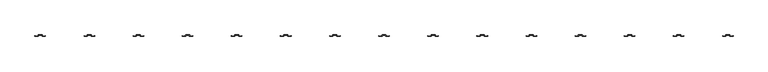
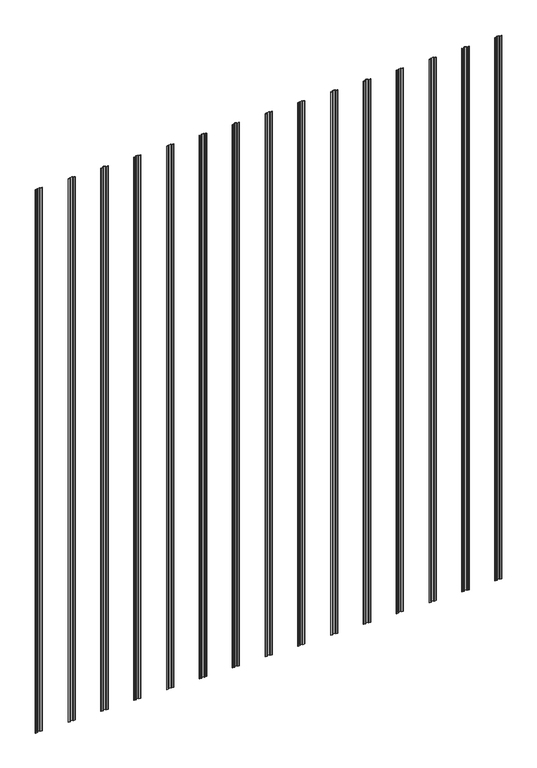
"""IFC4 building model written with IfcOpenShell, lengths in millimetres: fastener geometry, Knight-Wall-Systems_HCI-Girt : Knight-Wall-Systems_HCI-Girt."""

from ifc_helpers import new_model, si_unit, point, frame_2d, origin, origin_with_axes, place, context, project, spatial, polyline, circle_curve, trimmed, segment, composite_curve, outline, extrude, source, transform, mapped, element, save


def fastener_29e350ac(model_context):
    return source(origin(), model_context, "Body", "SweptSolid", [
        extrude(outline(composite_curve([segment(trimmed(circle_curve(frame_2d((8217.281, 3.048)), 1.524), [point((8217.281, 1.524))], [point((8218.805, 3.048))], True, "CARTESIAN"), True, "CONTINUOUS"), segment(polyline([(8218.805, 3.048), (8218.805, 16.002)]), True, "CONTINUOUS"), segment(trimmed(circle_curve(frame_2d((8221.853, 16.002)), 3.048), [point((8218.805, 16.002))], [point((8221.853, 19.05))], False, "CARTESIAN"), True, "CONTINUOUS"), segment(polyline([(8221.853, 19.05), (8266.557, 19.05)]), True, "CONTINUOUS"), segment(trimmed(circle_curve(frame_2d((8266.557, 16.002)), 3.048), [point((8266.557, 19.05))], [point((8269.605, 16.002))], False, "CARTESIAN"), True, "CONTINUOUS"), segment(polyline([(8269.605, 16.002), (8269.605, 3.048)]), True, "CONTINUOUS"), segment(trimmed(circle_curve(frame_2d((8271.129, 3.048)), 1.524), [point((8269.605, 3.048))], [point((8271.129, 1.524))], True, "CARTESIAN"), True, "CONTINUOUS"), segment(polyline([(8271.129, 1.524), (8307.07, 1.524)]), True, "CONTINUOUS"), segment(trimmed(circle_curve(frame_2d((8307.07, 2.54)), 1.016), [point((8307.07, 1.524))], [point((8308.086, 2.54))], True, "CARTESIAN"), True, "CONTINUOUS"), segment(polyline([(8308.086, 2.54), (8308.086, 5.588), (8309.61, 5.588), (8309.61, 2.54)]), True, "CONTINUOUS"), segment(trimmed(circle_curve(frame_2d((8307.07, 2.54)), 2.54), [point((8309.61, 2.54))], [point((8307.07, 0.0))], False, "CARTESIAN"), True, "CONTINUOUS"), segment(polyline([(8307.07, 0.0), (8271.129, 0.0)]), True, "CONTINUOUS"), segment(trimmed(circle_curve(frame_2d((8271.129, 3.048)), 3.048), [point((8271.129, 0.0))], [point((8268.081, 3.048))], False, "CARTESIAN"), True, "CONTINUOUS"), segment(polyline([(8268.081, 3.048), (8268.081, 16.002)]), True, "CONTINUOUS"), segment(trimmed(circle_curve(frame_2d((8266.557, 16.002)), 1.524), [point((8268.081, 16.002))], [point((8266.557, 17.526))], True, "CARTESIAN"), True, "CONTINUOUS"), segment(polyline([(8266.557, 17.526), (8221.853, 17.526)]), True, "CONTINUOUS"), segment(trimmed(circle_curve(frame_2d((8221.853, 16.002)), 1.524), [point((8221.853, 17.526))], [point((8220.329, 16.002))], True, "CARTESIAN"), True, "CONTINUOUS"), segment(polyline([(8220.329, 16.002), (8220.329, 3.048)]), True, "CONTINUOUS"), segment(trimmed(circle_curve(frame_2d((8217.281, 3.048)), 3.048), [point((8220.329, 3.048))], [point((8217.281, 0.0))], False, "CARTESIAN"), True, "CONTINUOUS"), segment(polyline([(8217.281, 0.0), (8181.34, 0.0)]), True, "CONTINUOUS"), segment(trimmed(circle_curve(frame_2d((8181.34, 2.54)), 2.54), [point((8181.34, 0.0))], [point((8178.8, 2.54))], False, "CARTESIAN"), True, "CONTINUOUS"), segment(polyline([(8178.8, 2.54), (8178.8, 5.588), (8180.324, 5.588), (8180.324, 2.54)]), True, "CONTINUOUS"), segment(trimmed(circle_curve(frame_2d((8181.34, 2.54)), 1.016), [point((8180.324, 2.54))], [point((8181.34, 1.524))], True, "CARTESIAN"), True, "CONTINUOUS"), segment(polyline([(8181.34, 1.524), (8217.281, 1.524)]), True, "CONTINUOUS")], self_intersect=False)), origin_with_axes(), (0.0, 0.0, 1.0), 10668.0),
        extrude(outline(composite_curve([segment(trimmed(circle_curve(frame_2d((7607.681, 3.048)), 1.524), [point((7607.681, 1.524))], [point((7609.205, 3.048))], True, "CARTESIAN"), True, "CONTINUOUS"), segment(polyline([(7609.205, 3.048), (7609.205, 16.002)]), True, "CONTINUOUS"), segment(trimmed(circle_curve(frame_2d((7612.253, 16.002)), 3.048), [point((7609.205, 16.002))], [point((7612.253, 19.05))], False, "CARTESIAN"), True, "CONTINUOUS"), segment(polyline([(7612.253, 19.05), (7656.957, 19.05)]), True, "CONTINUOUS"), segment(trimmed(circle_curve(frame_2d((7656.957, 16.002)), 3.048), [point((7656.957, 19.05))], [point((7660.005, 16.002))], False, "CARTESIAN"), True, "CONTINUOUS"), segment(polyline([(7660.005, 16.002), (7660.005, 3.048)]), True, "CONTINUOUS"), segment(trimmed(circle_curve(frame_2d((7661.529, 3.048)), 1.524), [point((7660.005, 3.048))], [point((7661.529, 1.524))], True, "CARTESIAN"), True, "CONTINUOUS"), segment(polyline([(7661.529, 1.524), (7697.47, 1.524)]), True, "CONTINUOUS"), segment(trimmed(circle_curve(frame_2d((7697.47, 2.54)), 1.016), [point((7697.47, 1.524))], [point((7698.486, 2.54))], True, "CARTESIAN"), True, "CONTINUOUS"), segment(polyline([(7698.486, 2.54), (7698.486, 5.588), (7700.01, 5.588), (7700.01, 2.54)]), True, "CONTINUOUS"), segment(trimmed(circle_curve(frame_2d((7697.47, 2.54)), 2.54), [point((7700.01, 2.54))], [point((7697.47, 0.0))], False, "CARTESIAN"), True, "CONTINUOUS"), segment(polyline([(7697.47, 0.0), (7661.529, 0.0)]), True, "CONTINUOUS"), segment(trimmed(circle_curve(frame_2d((7661.529, 3.048)), 3.048), [point((7661.529, 0.0))], [point((7658.481, 3.048))], False, "CARTESIAN"), True, "CONTINUOUS"), segment(polyline([(7658.481, 3.048), (7658.481, 16.002)]), True, "CONTINUOUS"), segment(trimmed(circle_curve(frame_2d((7656.957, 16.002)), 1.524), [point((7658.481, 16.002))], [point((7656.957, 17.526))], True, "CARTESIAN"), True, "CONTINUOUS"), segment(polyline([(7656.957, 17.526), (7612.253, 17.526)]), True, "CONTINUOUS"), segment(trimmed(circle_curve(frame_2d((7612.253, 16.002)), 1.524), [point((7612.253, 17.526))], [point((7610.729, 16.002))], True, "CARTESIAN"), True, "CONTINUOUS"), segment(polyline([(7610.729, 16.002), (7610.729, 3.048)]), True, "CONTINUOUS"), segment(trimmed(circle_curve(frame_2d((7607.681, 3.048)), 3.048), [point((7610.729, 3.048))], [point((7607.681, 0.0))], False, "CARTESIAN"), True, "CONTINUOUS"), segment(polyline([(7607.681, 0.0), (7571.74, 0.0)]), True, "CONTINUOUS"), segment(trimmed(circle_curve(frame_2d((7571.74, 2.54)), 2.54), [point((7571.74, 0.0))], [point((7569.2, 2.54))], False, "CARTESIAN"), True, "CONTINUOUS"), segment(polyline([(7569.2, 2.54), (7569.2, 5.588), (7570.724, 5.588), (7570.724, 2.54)]), True, "CONTINUOUS"), segment(trimmed(circle_curve(frame_2d((7571.74, 2.54)), 1.016), [point((7570.724, 2.54))], [point((7571.74, 1.524))], True, "CARTESIAN"), True, "CONTINUOUS"), segment(polyline([(7571.74, 1.524), (7607.681, 1.524)]), True, "CONTINUOUS")], self_intersect=False)), origin_with_axes(), (0.0, 0.0, 1.0), 10668.0),
        extrude(outline(composite_curve([segment(trimmed(circle_curve(frame_2d((6998.081, 3.048)), 1.524), [point((6998.081, 1.524))], [point((6999.605, 3.048))], True, "CARTESIAN"), True, "CONTINUOUS"), segment(polyline([(6999.605, 3.048), (6999.605, 16.002)]), True, "CONTINUOUS"), segment(trimmed(circle_curve(frame_2d((7002.653, 16.002)), 3.048), [point((6999.605, 16.002))], [point((7002.653, 19.05))], False, "CARTESIAN"), True, "CONTINUOUS"), segment(polyline([(7002.653, 19.05), (7047.357, 19.05)]), True, "CONTINUOUS"), segment(trimmed(circle_curve(frame_2d((7047.357, 16.002)), 3.048), [point((7047.357, 19.05))], [point((7050.405, 16.002))], False, "CARTESIAN"), True, "CONTINUOUS"), segment(polyline([(7050.405, 16.002), (7050.405, 3.048)]), True, "CONTINUOUS"), segment(trimmed(circle_curve(frame_2d((7051.929, 3.048)), 1.524), [point((7050.405, 3.048))], [point((7051.929, 1.524))], True, "CARTESIAN"), True, "CONTINUOUS"), segment(polyline([(7051.929, 1.524), (7087.87, 1.524)]), True, "CONTINUOUS"), segment(trimmed(circle_curve(frame_2d((7087.87, 2.54)), 1.016), [point((7087.87, 1.524))], [point((7088.886, 2.54))], True, "CARTESIAN"), True, "CONTINUOUS"), segment(polyline([(7088.886, 2.54), (7088.886, 5.588), (7090.41, 5.588), (7090.41, 2.54)]), True, "CONTINUOUS"), segment(trimmed(circle_curve(frame_2d((7087.87, 2.54)), 2.54), [point((7090.41, 2.54))], [point((7087.87, 0.0))], False, "CARTESIAN"), True, "CONTINUOUS"), segment(polyline([(7087.87, 0.0), (7051.929, 0.0)]), True, "CONTINUOUS"), segment(trimmed(circle_curve(frame_2d((7051.929, 3.048)), 3.048), [point((7051.929, 0.0))], [point((7048.881, 3.048))], False, "CARTESIAN"), True, "CONTINUOUS"), segment(polyline([(7048.881, 3.048), (7048.881, 16.002)]), True, "CONTINUOUS"), segment(trimmed(circle_curve(frame_2d((7047.357, 16.002)), 1.524), [point((7048.881, 16.002))], [point((7047.357, 17.526))], True, "CARTESIAN"), True, "CONTINUOUS"), segment(polyline([(7047.357, 17.526), (7002.653, 17.526)]), True, "CONTINUOUS"), segment(trimmed(circle_curve(frame_2d((7002.653, 16.002)), 1.524), [point((7002.653, 17.526))], [point((7001.129, 16.002))], True, "CARTESIAN"), True, "CONTINUOUS"), segment(polyline([(7001.129, 16.002), (7001.129, 3.048)]), True, "CONTINUOUS"), segment(trimmed(circle_curve(frame_2d((6998.081, 3.048)), 3.048), [point((7001.129, 3.048))], [point((6998.081, 0.0))], False, "CARTESIAN"), True, "CONTINUOUS"), segment(polyline([(6998.081, 0.0), (6962.14, 0.0)]), True, "CONTINUOUS"), segment(trimmed(circle_curve(frame_2d((6962.14, 2.54)), 2.54), [point((6962.14, 0.0))], [point((6959.6, 2.54))], False, "CARTESIAN"), True, "CONTINUOUS"), segment(polyline([(6959.6, 2.54), (6959.6, 5.588), (6961.124, 5.588), (6961.124, 2.54)]), True, "CONTINUOUS"), segment(trimmed(circle_curve(frame_2d((6962.14, 2.54)), 1.016), [point((6961.124, 2.54))], [point((6962.14, 1.524))], True, "CARTESIAN"), True, "CONTINUOUS"), segment(polyline([(6962.14, 1.524), (6998.081, 1.524)]), True, "CONTINUOUS")], self_intersect=False)), origin_with_axes(), (0.0, 0.0, 1.0), 10668.0),
        extrude(outline(composite_curve([segment(trimmed(circle_curve(frame_2d((6388.481, 3.048)), 1.524), [point((6388.481, 1.524))], [point((6390.005, 3.048))], True, "CARTESIAN"), True, "CONTINUOUS"), segment(polyline([(6390.005, 3.048), (6390.005, 16.002)]), True, "CONTINUOUS"), segment(trimmed(circle_curve(frame_2d((6393.053, 16.002)), 3.048), [point((6390.005, 16.002))], [point((6393.053, 19.05))], False, "CARTESIAN"), True, "CONTINUOUS"), segment(polyline([(6393.053, 19.05), (6437.757, 19.05)]), True, "CONTINUOUS"), segment(trimmed(circle_curve(frame_2d((6437.757, 16.002)), 3.048), [point((6437.757, 19.05))], [point((6440.805, 16.002))], False, "CARTESIAN"), True, "CONTINUOUS"), segment(polyline([(6440.805, 16.002), (6440.805, 3.048)]), True, "CONTINUOUS"), segment(trimmed(circle_curve(frame_2d((6442.329, 3.048)), 1.524), [point((6440.805, 3.048))], [point((6442.329, 1.524))], True, "CARTESIAN"), True, "CONTINUOUS"), segment(polyline([(6442.329, 1.524), (6478.27, 1.524)]), True, "CONTINUOUS"), segment(trimmed(circle_curve(frame_2d((6478.27, 2.54)), 1.016), [point((6478.27, 1.524))], [point((6479.286, 2.54))], True, "CARTESIAN"), True, "CONTINUOUS"), segment(polyline([(6479.286, 2.54), (6479.286, 5.588), (6480.81, 5.588), (6480.81, 2.54)]), True, "CONTINUOUS"), segment(trimmed(circle_curve(frame_2d((6478.27, 2.54)), 2.54), [point((6480.81, 2.54))], [point((6478.27, 0.0))], False, "CARTESIAN"), True, "CONTINUOUS"), segment(polyline([(6478.27, 0.0), (6442.329, 0.0)]), True, "CONTINUOUS"), segment(trimmed(circle_curve(frame_2d((6442.329, 3.048)), 3.048), [point((6442.329, 0.0))], [point((6439.281, 3.048))], False, "CARTESIAN"), True, "CONTINUOUS"), segment(polyline([(6439.281, 3.048), (6439.281, 16.002)]), True, "CONTINUOUS"), segment(trimmed(circle_curve(frame_2d((6437.757, 16.002)), 1.524), [point((6439.281, 16.002))], [point((6437.757, 17.526))], True, "CARTESIAN"), True, "CONTINUOUS"), segment(polyline([(6437.757, 17.526), (6393.053, 17.526)]), True, "CONTINUOUS"), segment(trimmed(circle_curve(frame_2d((6393.053, 16.002)), 1.524), [point((6393.053, 17.526))], [point((6391.529, 16.002))], True, "CARTESIAN"), True, "CONTINUOUS"), segment(polyline([(6391.529, 16.002), (6391.529, 3.048)]), True, "CONTINUOUS"), segment(trimmed(circle_curve(frame_2d((6388.481, 3.048)), 3.048), [point((6391.529, 3.048))], [point((6388.481, 0.0))], False, "CARTESIAN"), True, "CONTINUOUS"), segment(polyline([(6388.481, 0.0), (6352.54, 0.0)]), True, "CONTINUOUS"), segment(trimmed(circle_curve(frame_2d((6352.54, 2.54)), 2.54), [point((6352.54, 0.0))], [point((6350.0, 2.54))], False, "CARTESIAN"), True, "CONTINUOUS"), segment(polyline([(6350.0, 2.54), (6350.0, 5.588), (6351.524, 5.588), (6351.524, 2.54)]), True, "CONTINUOUS"), segment(trimmed(circle_curve(frame_2d((6352.54, 2.54)), 1.016), [point((6351.524, 2.54))], [point((6352.54, 1.524))], True, "CARTESIAN"), True, "CONTINUOUS"), segment(polyline([(6352.54, 1.524), (6388.481, 1.524)]), True, "CONTINUOUS")], self_intersect=False)), origin_with_axes(), (0.0, 0.0, 1.0), 10668.0),
        extrude(outline(composite_curve([segment(trimmed(circle_curve(frame_2d((5778.881, 3.048)), 1.524), [point((5778.881, 1.524))], [point((5780.405, 3.048))], True, "CARTESIAN"), True, "CONTINUOUS"), segment(polyline([(5780.405, 3.048), (5780.405, 16.002)]), True, "CONTINUOUS"), segment(trimmed(circle_curve(frame_2d((5783.453, 16.002)), 3.048), [point((5780.405, 16.002))], [point((5783.453, 19.05))], False, "CARTESIAN"), True, "CONTINUOUS"), segment(polyline([(5783.453, 19.05), (5828.157, 19.05)]), True, "CONTINUOUS"), segment(trimmed(circle_curve(frame_2d((5828.157, 16.002)), 3.048), [point((5828.157, 19.05))], [point((5831.205, 16.002))], False, "CARTESIAN"), True, "CONTINUOUS"), segment(polyline([(5831.205, 16.002), (5831.205, 3.048)]), True, "CONTINUOUS"), segment(trimmed(circle_curve(frame_2d((5832.729, 3.048)), 1.524), [point((5831.205, 3.048))], [point((5832.729, 1.524))], True, "CARTESIAN"), True, "CONTINUOUS"), segment(polyline([(5832.729, 1.524), (5868.67, 1.524)]), True, "CONTINUOUS"), segment(trimmed(circle_curve(frame_2d((5868.67, 2.54)), 1.016), [point((5868.67, 1.524))], [point((5869.686, 2.54))], True, "CARTESIAN"), True, "CONTINUOUS"), segment(polyline([(5869.686, 2.54), (5869.686, 5.588), (5871.21, 5.588), (5871.21, 2.54)]), True, "CONTINUOUS"), segment(trimmed(circle_curve(frame_2d((5868.67, 2.54)), 2.54), [point((5871.21, 2.54))], [point((5868.67, 0.0))], False, "CARTESIAN"), True, "CONTINUOUS"), segment(polyline([(5868.67, 0.0), (5832.729, 0.0)]), True, "CONTINUOUS"), segment(trimmed(circle_curve(frame_2d((5832.729, 3.048)), 3.048), [point((5832.729, 0.0))], [point((5829.681, 3.048))], False, "CARTESIAN"), True, "CONTINUOUS"), segment(polyline([(5829.681, 3.048), (5829.681, 16.002)]), True, "CONTINUOUS"), segment(trimmed(circle_curve(frame_2d((5828.157, 16.002)), 1.524), [point((5829.681, 16.002))], [point((5828.157, 17.526))], True, "CARTESIAN"), True, "CONTINUOUS"), segment(polyline([(5828.157, 17.526), (5783.453, 17.526)]), True, "CONTINUOUS"), segment(trimmed(circle_curve(frame_2d((5783.453, 16.002)), 1.524), [point((5783.453, 17.526))], [point((5781.929, 16.002))], True, "CARTESIAN"), True, "CONTINUOUS"), segment(polyline([(5781.929, 16.002), (5781.929, 3.048)]), True, "CONTINUOUS"), segment(trimmed(circle_curve(frame_2d((5778.881, 3.048)), 3.048), [point((5781.929, 3.048))], [point((5778.881, 0.0))], False, "CARTESIAN"), True, "CONTINUOUS"), segment(polyline([(5778.881, 0.0), (5742.94, 0.0)]), True, "CONTINUOUS"), segment(trimmed(circle_curve(frame_2d((5742.94, 2.54)), 2.54), [point((5742.94, 0.0))], [point((5740.4, 2.54))], False, "CARTESIAN"), True, "CONTINUOUS"), segment(polyline([(5740.4, 2.54), (5740.4, 5.588), (5741.924, 5.588), (5741.924, 2.54)]), True, "CONTINUOUS"), segment(trimmed(circle_curve(frame_2d((5742.94, 2.54)), 1.016), [point((5741.924, 2.54))], [point((5742.94, 1.524))], True, "CARTESIAN"), True, "CONTINUOUS"), segment(polyline([(5742.94, 1.524), (5778.881, 1.524)]), True, "CONTINUOUS")], self_intersect=False)), origin_with_axes(), (0.0, 0.0, 1.0), 10668.0),
        extrude(outline(composite_curve([segment(trimmed(circle_curve(frame_2d((5169.281, 3.048)), 1.524), [point((5169.281, 1.524))], [point((5170.805, 3.048))], True, "CARTESIAN"), True, "CONTINUOUS"), segment(polyline([(5170.805, 3.048), (5170.805, 16.002)]), True, "CONTINUOUS"), segment(trimmed(circle_curve(frame_2d((5173.853, 16.002)), 3.048), [point((5170.805, 16.002))], [point((5173.853, 19.05))], False, "CARTESIAN"), True, "CONTINUOUS"), segment(polyline([(5173.853, 19.05), (5218.557, 19.05)]), True, "CONTINUOUS"), segment(trimmed(circle_curve(frame_2d((5218.557, 16.002)), 3.048), [point((5218.557, 19.05))], [point((5221.605, 16.002))], False, "CARTESIAN"), True, "CONTINUOUS"), segment(polyline([(5221.605, 16.002), (5221.605, 3.048)]), True, "CONTINUOUS"), segment(trimmed(circle_curve(frame_2d((5223.129, 3.048)), 1.524), [point((5221.605, 3.048))], [point((5223.129, 1.524))], True, "CARTESIAN"), True, "CONTINUOUS"), segment(polyline([(5223.129, 1.524), (5259.07, 1.524)]), True, "CONTINUOUS"), segment(trimmed(circle_curve(frame_2d((5259.07, 2.54)), 1.016), [point((5259.07, 1.524))], [point((5260.086, 2.54))], True, "CARTESIAN"), True, "CONTINUOUS"), segment(polyline([(5260.086, 2.54), (5260.086, 5.588), (5261.61, 5.588), (5261.61, 2.54)]), True, "CONTINUOUS"), segment(trimmed(circle_curve(frame_2d((5259.07, 2.54)), 2.54), [point((5261.61, 2.54))], [point((5259.07, 0.0))], False, "CARTESIAN"), True, "CONTINUOUS"), segment(polyline([(5259.07, 0.0), (5223.129, 0.0)]), True, "CONTINUOUS"), segment(trimmed(circle_curve(frame_2d((5223.129, 3.048)), 3.048), [point((5223.129, 0.0))], [point((5220.081, 3.048))], False, "CARTESIAN"), True, "CONTINUOUS"), segment(polyline([(5220.081, 3.048), (5220.081, 16.002)]), True, "CONTINUOUS"), segment(trimmed(circle_curve(frame_2d((5218.557, 16.002)), 1.524), [point((5220.081, 16.002))], [point((5218.557, 17.526))], True, "CARTESIAN"), True, "CONTINUOUS"), segment(polyline([(5218.557, 17.526), (5173.853, 17.526)]), True, "CONTINUOUS"), segment(trimmed(circle_curve(frame_2d((5173.853, 16.002)), 1.524), [point((5173.853, 17.526))], [point((5172.329, 16.002))], True, "CARTESIAN"), True, "CONTINUOUS"), segment(polyline([(5172.329, 16.002), (5172.329, 3.048)]), True, "CONTINUOUS"), segment(trimmed(circle_curve(frame_2d((5169.281, 3.048)), 3.048), [point((5172.329, 3.048))], [point((5169.281, 0.0))], False, "CARTESIAN"), True, "CONTINUOUS"), segment(polyline([(5169.281, 0.0), (5133.34, 0.0)]), True, "CONTINUOUS"), segment(trimmed(circle_curve(frame_2d((5133.34, 2.54)), 2.54), [point((5133.34, 0.0))], [point((5130.8, 2.54))], False, "CARTESIAN"), True, "CONTINUOUS"), segment(polyline([(5130.8, 2.54), (5130.8, 5.588), (5132.324, 5.588), (5132.324, 2.54)]), True, "CONTINUOUS"), segment(trimmed(circle_curve(frame_2d((5133.34, 2.54)), 1.016), [point((5132.324, 2.54))], [point((5133.34, 1.524))], True, "CARTESIAN"), True, "CONTINUOUS"), segment(polyline([(5133.34, 1.524), (5169.281, 1.524)]), True, "CONTINUOUS")], self_intersect=False)), origin_with_axes(), (0.0, 0.0, 1.0), 10668.0),
        extrude(outline(composite_curve([segment(trimmed(circle_curve(frame_2d((4559.681, 3.048)), 1.524), [point((4559.681, 1.524))], [point((4561.205, 3.048))], True, "CARTESIAN"), True, "CONTINUOUS"), segment(polyline([(4561.205, 3.048), (4561.205, 16.002)]), True, "CONTINUOUS"), segment(trimmed(circle_curve(frame_2d((4564.253, 16.002)), 3.048), [point((4561.205, 16.002))], [point((4564.253, 19.05))], False, "CARTESIAN"), True, "CONTINUOUS"), segment(polyline([(4564.253, 19.05), (4608.957, 19.05)]), True, "CONTINUOUS"), segment(trimmed(circle_curve(frame_2d((4608.957, 16.002)), 3.048), [point((4608.957, 19.05))], [point((4612.005, 16.002))], False, "CARTESIAN"), True, "CONTINUOUS"), segment(polyline([(4612.005, 16.002), (4612.005, 3.048)]), True, "CONTINUOUS"), segment(trimmed(circle_curve(frame_2d((4613.529, 3.048)), 1.524), [point((4612.005, 3.048))], [point((4613.529, 1.524))], True, "CARTESIAN"), True, "CONTINUOUS"), segment(polyline([(4613.529, 1.524), (4649.47, 1.524)]), True, "CONTINUOUS"), segment(trimmed(circle_curve(frame_2d((4649.47, 2.54)), 1.016), [point((4649.47, 1.524))], [point((4650.486, 2.54))], True, "CARTESIAN"), True, "CONTINUOUS"), segment(polyline([(4650.486, 2.54), (4650.486, 5.588), (4652.01, 5.588), (4652.01, 2.54)]), True, "CONTINUOUS"), segment(trimmed(circle_curve(frame_2d((4649.47, 2.54)), 2.54), [point((4652.01, 2.54))], [point((4649.47, 0.0))], False, "CARTESIAN"), True, "CONTINUOUS"), segment(polyline([(4649.47, 0.0), (4613.529, 0.0)]), True, "CONTINUOUS"), segment(trimmed(circle_curve(frame_2d((4613.529, 3.048)), 3.048), [point((4613.529, 0.0))], [point((4610.481, 3.048))], False, "CARTESIAN"), True, "CONTINUOUS"), segment(polyline([(4610.481, 3.048), (4610.481, 16.002)]), True, "CONTINUOUS"), segment(trimmed(circle_curve(frame_2d((4608.957, 16.002)), 1.524), [point((4610.481, 16.002))], [point((4608.957, 17.526))], True, "CARTESIAN"), True, "CONTINUOUS"), segment(polyline([(4608.957, 17.526), (4564.253, 17.526)]), True, "CONTINUOUS"), segment(trimmed(circle_curve(frame_2d((4564.253, 16.002)), 1.524), [point((4564.253, 17.526))], [point((4562.729, 16.002))], True, "CARTESIAN"), True, "CONTINUOUS"), segment(polyline([(4562.729, 16.002), (4562.729, 3.048)]), True, "CONTINUOUS"), segment(trimmed(circle_curve(frame_2d((4559.681, 3.048)), 3.048), [point((4562.729, 3.048))], [point((4559.681, 0.0))], False, "CARTESIAN"), True, "CONTINUOUS"), segment(polyline([(4559.681, 0.0), (4523.74, 0.0)]), True, "CONTINUOUS"), segment(trimmed(circle_curve(frame_2d((4523.74, 2.54)), 2.54), [point((4523.74, 0.0))], [point((4521.2, 2.54))], False, "CARTESIAN"), True, "CONTINUOUS"), segment(polyline([(4521.2, 2.54), (4521.2, 5.588), (4522.724, 5.588), (4522.724, 2.54)]), True, "CONTINUOUS"), segment(trimmed(circle_curve(frame_2d((4523.74, 2.54)), 1.016), [point((4522.724, 2.54))], [point((4523.74, 1.524))], True, "CARTESIAN"), True, "CONTINUOUS"), segment(polyline([(4523.74, 1.524), (4559.681, 1.524)]), True, "CONTINUOUS")], self_intersect=False)), origin_with_axes(), (0.0, 0.0, 1.0), 10668.0),
        extrude(outline(composite_curve([segment(trimmed(circle_curve(frame_2d((3950.081, 3.048)), 1.524), [point((3950.081, 1.524))], [point((3951.605, 3.048))], True, "CARTESIAN"), True, "CONTINUOUS"), segment(polyline([(3951.605, 3.048), (3951.605, 16.002)]), True, "CONTINUOUS"), segment(trimmed(circle_curve(frame_2d((3954.653, 16.002)), 3.048), [point((3951.605, 16.002))], [point((3954.653, 19.05))], False, "CARTESIAN"), True, "CONTINUOUS"), segment(polyline([(3954.653, 19.05), (3999.357, 19.05)]), True, "CONTINUOUS"), segment(trimmed(circle_curve(frame_2d((3999.357, 16.002)), 3.048), [point((3999.357, 19.05))], [point((4002.405, 16.002))], False, "CARTESIAN"), True, "CONTINUOUS"), segment(polyline([(4002.405, 16.002), (4002.405, 3.048)]), True, "CONTINUOUS"), segment(trimmed(circle_curve(frame_2d((4003.929, 3.048)), 1.524), [point((4002.405, 3.048))], [point((4003.929, 1.524))], True, "CARTESIAN"), True, "CONTINUOUS"), segment(polyline([(4003.929, 1.524), (4039.87, 1.524)]), True, "CONTINUOUS"), segment(trimmed(circle_curve(frame_2d((4039.87, 2.54)), 1.016), [point((4039.87, 1.524))], [point((4040.886, 2.54))], True, "CARTESIAN"), True, "CONTINUOUS"), segment(polyline([(4040.886, 2.54), (4040.886, 5.588), (4042.41, 5.588), (4042.41, 2.54)]), True, "CONTINUOUS"), segment(trimmed(circle_curve(frame_2d((4039.87, 2.54)), 2.54), [point((4042.41, 2.54))], [point((4039.87, 0.0))], False, "CARTESIAN"), True, "CONTINUOUS"), segment(polyline([(4039.87, 0.0), (4003.929, 0.0)]), True, "CONTINUOUS"), segment(trimmed(circle_curve(frame_2d((4003.929, 3.048)), 3.048), [point((4003.929, 0.0))], [point((4000.881, 3.048))], False, "CARTESIAN"), True, "CONTINUOUS"), segment(polyline([(4000.881, 3.048), (4000.881, 16.002)]), True, "CONTINUOUS"), segment(trimmed(circle_curve(frame_2d((3999.357, 16.002)), 1.524), [point((4000.881, 16.002))], [point((3999.357, 17.526))], True, "CARTESIAN"), True, "CONTINUOUS"), segment(polyline([(3999.357, 17.526), (3954.653, 17.526)]), True, "CONTINUOUS"), segment(trimmed(circle_curve(frame_2d((3954.653, 16.002)), 1.524), [point((3954.653, 17.526))], [point((3953.129, 16.002))], True, "CARTESIAN"), True, "CONTINUOUS"), segment(polyline([(3953.129, 16.002), (3953.129, 3.048)]), True, "CONTINUOUS"), segment(trimmed(circle_curve(frame_2d((3950.081, 3.048)), 3.048), [point((3953.129, 3.048))], [point((3950.081, 0.0))], False, "CARTESIAN"), True, "CONTINUOUS"), segment(polyline([(3950.081, 0.0), (3914.14, 0.0)]), True, "CONTINUOUS"), segment(trimmed(circle_curve(frame_2d((3914.14, 2.54)), 2.54), [point((3914.14, 0.0))], [point((3911.6, 2.54))], False, "CARTESIAN"), True, "CONTINUOUS"), segment(polyline([(3911.6, 2.54), (3911.6, 5.588), (3913.124, 5.588), (3913.124, 2.54)]), True, "CONTINUOUS"), segment(trimmed(circle_curve(frame_2d((3914.14, 2.54)), 1.016), [point((3913.124, 2.54))], [point((3914.14, 1.524))], True, "CARTESIAN"), True, "CONTINUOUS"), segment(polyline([(3914.14, 1.524), (3950.081, 1.524)]), True, "CONTINUOUS")], self_intersect=False)), origin_with_axes(), (0.0, 0.0, 1.0), 10668.0),
        extrude(outline(composite_curve([segment(trimmed(circle_curve(frame_2d((3340.481, 3.048)), 1.524), [point((3340.481, 1.524))], [point((3342.005, 3.048))], True, "CARTESIAN"), True, "CONTINUOUS"), segment(polyline([(3342.005, 3.048), (3342.005, 16.002)]), True, "CONTINUOUS"), segment(trimmed(circle_curve(frame_2d((3345.053, 16.002)), 3.048), [point((3342.005, 16.002))], [point((3345.053, 19.05))], False, "CARTESIAN"), True, "CONTINUOUS"), segment(polyline([(3345.053, 19.05), (3389.757, 19.05)]), True, "CONTINUOUS"), segment(trimmed(circle_curve(frame_2d((3389.757, 16.002)), 3.048), [point((3389.757, 19.05))], [point((3392.805, 16.002))], False, "CARTESIAN"), True, "CONTINUOUS"), segment(polyline([(3392.805, 16.002), (3392.805, 3.048)]), True, "CONTINUOUS"), segment(trimmed(circle_curve(frame_2d((3394.329, 3.048)), 1.524), [point((3392.805, 3.048))], [point((3394.329, 1.524))], True, "CARTESIAN"), True, "CONTINUOUS"), segment(polyline([(3394.329, 1.524), (3430.27, 1.524)]), True, "CONTINUOUS"), segment(trimmed(circle_curve(frame_2d((3430.27, 2.54)), 1.016), [point((3430.27, 1.524))], [point((3431.286, 2.54))], True, "CARTESIAN"), True, "CONTINUOUS"), segment(polyline([(3431.286, 2.54), (3431.286, 5.588), (3432.81, 5.588), (3432.81, 2.54)]), True, "CONTINUOUS"), segment(trimmed(circle_curve(frame_2d((3430.27, 2.54)), 2.54), [point((3432.81, 2.54))], [point((3430.27, 0.0))], False, "CARTESIAN"), True, "CONTINUOUS"), segment(polyline([(3430.27, 0.0), (3394.329, 0.0)]), True, "CONTINUOUS"), segment(trimmed(circle_curve(frame_2d((3394.329, 3.048)), 3.048), [point((3394.329, 0.0))], [point((3391.281, 3.048))], False, "CARTESIAN"), True, "CONTINUOUS"), segment(polyline([(3391.281, 3.048), (3391.281, 16.002)]), True, "CONTINUOUS"), segment(trimmed(circle_curve(frame_2d((3389.757, 16.002)), 1.524), [point((3391.281, 16.002))], [point((3389.757, 17.526))], True, "CARTESIAN"), True, "CONTINUOUS"), segment(polyline([(3389.757, 17.526), (3345.053, 17.526)]), True, "CONTINUOUS"), segment(trimmed(circle_curve(frame_2d((3345.053, 16.002)), 1.524), [point((3345.053, 17.526))], [point((3343.529, 16.002))], True, "CARTESIAN"), True, "CONTINUOUS"), segment(polyline([(3343.529, 16.002), (3343.529, 3.048)]), True, "CONTINUOUS"), segment(trimmed(circle_curve(frame_2d((3340.481, 3.048)), 3.048), [point((3343.529, 3.048))], [point((3340.481, 0.0))], False, "CARTESIAN"), True, "CONTINUOUS"), segment(polyline([(3340.481, 0.0), (3304.54, 0.0)]), True, "CONTINUOUS"), segment(trimmed(circle_curve(frame_2d((3304.54, 2.54)), 2.54), [point((3304.54, 0.0))], [point((3302.0, 2.54))], False, "CARTESIAN"), True, "CONTINUOUS"), segment(polyline([(3302.0, 2.54), (3302.0, 5.588), (3303.524, 5.588), (3303.524, 2.54)]), True, "CONTINUOUS"), segment(trimmed(circle_curve(frame_2d((3304.54, 2.54)), 1.016), [point((3303.524, 2.54))], [point((3304.54, 1.524))], True, "CARTESIAN"), True, "CONTINUOUS"), segment(polyline([(3304.54, 1.524), (3340.481, 1.524)]), True, "CONTINUOUS")], self_intersect=False)), origin_with_axes(), (0.0, 0.0, 1.0), 10668.0),
        extrude(outline(composite_curve([segment(trimmed(circle_curve(frame_2d((2730.881, 3.048)), 1.524), [point((2730.881, 1.524))], [point((2732.405, 3.048))], True, "CARTESIAN"), True, "CONTINUOUS"), segment(polyline([(2732.405, 3.048), (2732.405, 16.002)]), True, "CONTINUOUS"), segment(trimmed(circle_curve(frame_2d((2735.453, 16.002)), 3.048), [point((2732.405, 16.002))], [point((2735.453, 19.05))], False, "CARTESIAN"), True, "CONTINUOUS"), segment(polyline([(2735.453, 19.05), (2780.157, 19.05)]), True, "CONTINUOUS"), segment(trimmed(circle_curve(frame_2d((2780.157, 16.002)), 3.048), [point((2780.157, 19.05))], [point((2783.205, 16.002))], False, "CARTESIAN"), True, "CONTINUOUS"), segment(polyline([(2783.205, 16.002), (2783.205, 3.048)]), True, "CONTINUOUS"), segment(trimmed(circle_curve(frame_2d((2784.729, 3.048)), 1.524), [point((2783.205, 3.048))], [point((2784.729, 1.524))], True, "CARTESIAN"), True, "CONTINUOUS"), segment(polyline([(2784.729, 1.524), (2820.67, 1.524)]), True, "CONTINUOUS"), segment(trimmed(circle_curve(frame_2d((2820.67, 2.54)), 1.016), [point((2820.67, 1.524))], [point((2821.686, 2.54))], True, "CARTESIAN"), True, "CONTINUOUS"), segment(polyline([(2821.686, 2.54), (2821.686, 5.588), (2823.21, 5.588), (2823.21, 2.54)]), True, "CONTINUOUS"), segment(trimmed(circle_curve(frame_2d((2820.67, 2.54)), 2.54), [point((2823.21, 2.54))], [point((2820.67, 0.0))], False, "CARTESIAN"), True, "CONTINUOUS"), segment(polyline([(2820.67, 0.0), (2784.729, 0.0)]), True, "CONTINUOUS"), segment(trimmed(circle_curve(frame_2d((2784.729, 3.048)), 3.048), [point((2784.729, 0.0))], [point((2781.681, 3.048))], False, "CARTESIAN"), True, "CONTINUOUS"), segment(polyline([(2781.681, 3.048), (2781.681, 16.002)]), True, "CONTINUOUS"), segment(trimmed(circle_curve(frame_2d((2780.157, 16.002)), 1.524), [point((2781.681, 16.002))], [point((2780.157, 17.526))], True, "CARTESIAN"), True, "CONTINUOUS"), segment(polyline([(2780.157, 17.526), (2735.453, 17.526)]), True, "CONTINUOUS"), segment(trimmed(circle_curve(frame_2d((2735.453, 16.002)), 1.524), [point((2735.453, 17.526))], [point((2733.929, 16.002))], True, "CARTESIAN"), True, "CONTINUOUS"), segment(polyline([(2733.929, 16.002), (2733.929, 3.048)]), True, "CONTINUOUS"), segment(trimmed(circle_curve(frame_2d((2730.881, 3.048)), 3.048), [point((2733.929, 3.048))], [point((2730.881, 0.0))], False, "CARTESIAN"), True, "CONTINUOUS"), segment(polyline([(2730.881, 0.0), (2694.94, 0.0)]), True, "CONTINUOUS"), segment(trimmed(circle_curve(frame_2d((2694.94, 2.54)), 2.54), [point((2694.94, 0.0))], [point((2692.4, 2.54))], False, "CARTESIAN"), True, "CONTINUOUS"), segment(polyline([(2692.4, 2.54), (2692.4, 5.588), (2693.924, 5.588), (2693.924, 2.54)]), True, "CONTINUOUS"), segment(trimmed(circle_curve(frame_2d((2694.94, 2.54)), 1.016), [point((2693.924, 2.54))], [point((2694.94, 1.524))], True, "CARTESIAN"), True, "CONTINUOUS"), segment(polyline([(2694.94, 1.524), (2730.881, 1.524)]), True, "CONTINUOUS")], self_intersect=False)), origin_with_axes(), (0.0, 0.0, 1.0), 10668.0),
        extrude(outline(composite_curve([segment(trimmed(circle_curve(frame_2d((2121.281, 3.048)), 1.524), [point((2121.281, 1.524))], [point((2122.805, 3.048))], True, "CARTESIAN"), True, "CONTINUOUS"), segment(polyline([(2122.805, 3.048), (2122.805, 16.002)]), True, "CONTINUOUS"), segment(trimmed(circle_curve(frame_2d((2125.853, 16.002)), 3.048), [point((2122.805, 16.002))], [point((2125.853, 19.05))], False, "CARTESIAN"), True, "CONTINUOUS"), segment(polyline([(2125.853, 19.05), (2170.557, 19.05)]), True, "CONTINUOUS"), segment(trimmed(circle_curve(frame_2d((2170.557, 16.002)), 3.048), [point((2170.557, 19.05))], [point((2173.605, 16.002))], False, "CARTESIAN"), True, "CONTINUOUS"), segment(polyline([(2173.605, 16.002), (2173.605, 3.048)]), True, "CONTINUOUS"), segment(trimmed(circle_curve(frame_2d((2175.129, 3.048)), 1.524), [point((2173.605, 3.048))], [point((2175.129, 1.524))], True, "CARTESIAN"), True, "CONTINUOUS"), segment(polyline([(2175.129, 1.524), (2211.07, 1.524)]), True, "CONTINUOUS"), segment(trimmed(circle_curve(frame_2d((2211.07, 2.54)), 1.016), [point((2211.07, 1.524))], [point((2212.086, 2.54))], True, "CARTESIAN"), True, "CONTINUOUS"), segment(polyline([(2212.086, 2.54), (2212.086, 5.588), (2213.61, 5.588), (2213.61, 2.54)]), True, "CONTINUOUS"), segment(trimmed(circle_curve(frame_2d((2211.07, 2.54)), 2.54), [point((2213.61, 2.54))], [point((2211.07, 0.0))], False, "CARTESIAN"), True, "CONTINUOUS"), segment(polyline([(2211.07, 0.0), (2175.129, 0.0)]), True, "CONTINUOUS"), segment(trimmed(circle_curve(frame_2d((2175.129, 3.048)), 3.048), [point((2175.129, 0.0))], [point((2172.081, 3.048))], False, "CARTESIAN"), True, "CONTINUOUS"), segment(polyline([(2172.081, 3.048), (2172.081, 16.002)]), True, "CONTINUOUS"), segment(trimmed(circle_curve(frame_2d((2170.557, 16.002)), 1.524), [point((2172.081, 16.002))], [point((2170.557, 17.526))], True, "CARTESIAN"), True, "CONTINUOUS"), segment(polyline([(2170.557, 17.526), (2125.853, 17.526)]), True, "CONTINUOUS"), segment(trimmed(circle_curve(frame_2d((2125.853, 16.002)), 1.524), [point((2125.853, 17.526))], [point((2124.329, 16.002))], True, "CARTESIAN"), True, "CONTINUOUS"), segment(polyline([(2124.329, 16.002), (2124.329, 3.048)]), True, "CONTINUOUS"), segment(trimmed(circle_curve(frame_2d((2121.281, 3.048)), 3.048), [point((2124.329, 3.048))], [point((2121.281, 0.0))], False, "CARTESIAN"), True, "CONTINUOUS"), segment(polyline([(2121.281, 0.0), (2085.34, 0.0)]), True, "CONTINUOUS"), segment(trimmed(circle_curve(frame_2d((2085.34, 2.54)), 2.54), [point((2085.34, 0.0))], [point((2082.8, 2.54))], False, "CARTESIAN"), True, "CONTINUOUS"), segment(polyline([(2082.8, 2.54), (2082.8, 5.588), (2084.324, 5.588), (2084.324, 2.54)]), True, "CONTINUOUS"), segment(trimmed(circle_curve(frame_2d((2085.34, 2.54)), 1.016), [point((2084.324, 2.54))], [point((2085.34, 1.524))], True, "CARTESIAN"), True, "CONTINUOUS"), segment(polyline([(2085.34, 1.524), (2121.281, 1.524)]), True, "CONTINUOUS")], self_intersect=False)), origin_with_axes(), (0.0, 0.0, 1.0), 10668.0),
        extrude(outline(composite_curve([segment(trimmed(circle_curve(frame_2d((1511.681, 3.048)), 1.524), [point((1511.681, 1.524))], [point((1513.205, 3.048))], True, "CARTESIAN"), True, "CONTINUOUS"), segment(polyline([(1513.205, 3.048), (1513.205, 16.002)]), True, "CONTINUOUS"), segment(trimmed(circle_curve(frame_2d((1516.253, 16.002)), 3.048), [point((1513.205, 16.002))], [point((1516.253, 19.05))], False, "CARTESIAN"), True, "CONTINUOUS"), segment(polyline([(1516.253, 19.05), (1560.957, 19.05)]), True, "CONTINUOUS"), segment(trimmed(circle_curve(frame_2d((1560.957, 16.002)), 3.048), [point((1560.957, 19.05))], [point((1564.005, 16.002))], False, "CARTESIAN"), True, "CONTINUOUS"), segment(polyline([(1564.005, 16.002), (1564.005, 3.048)]), True, "CONTINUOUS"), segment(trimmed(circle_curve(frame_2d((1565.529, 3.048)), 1.524), [point((1564.005, 3.048))], [point((1565.529, 1.524))], True, "CARTESIAN"), True, "CONTINUOUS"), segment(polyline([(1565.529, 1.524), (1601.47, 1.524)]), True, "CONTINUOUS"), segment(trimmed(circle_curve(frame_2d((1601.47, 2.54)), 1.016), [point((1601.47, 1.524))], [point((1602.486, 2.54))], True, "CARTESIAN"), True, "CONTINUOUS"), segment(polyline([(1602.486, 2.54), (1602.486, 5.588), (1604.01, 5.588), (1604.01, 2.54)]), True, "CONTINUOUS"), segment(trimmed(circle_curve(frame_2d((1601.47, 2.54)), 2.54), [point((1604.01, 2.54))], [point((1601.47, 0.0))], False, "CARTESIAN"), True, "CONTINUOUS"), segment(polyline([(1601.47, 0.0), (1565.529, 0.0)]), True, "CONTINUOUS"), segment(trimmed(circle_curve(frame_2d((1565.529, 3.048)), 3.048), [point((1565.529, 0.0))], [point((1562.481, 3.048))], False, "CARTESIAN"), True, "CONTINUOUS"), segment(polyline([(1562.481, 3.048), (1562.481, 16.002)]), True, "CONTINUOUS"), segment(trimmed(circle_curve(frame_2d((1560.957, 16.002)), 1.524), [point((1562.481, 16.002))], [point((1560.957, 17.526))], True, "CARTESIAN"), True, "CONTINUOUS"), segment(polyline([(1560.957, 17.526), (1516.253, 17.526)]), True, "CONTINUOUS"), segment(trimmed(circle_curve(frame_2d((1516.253, 16.002)), 1.524), [point((1516.253, 17.526))], [point((1514.729, 16.002))], True, "CARTESIAN"), True, "CONTINUOUS"), segment(polyline([(1514.729, 16.002), (1514.729, 3.048)]), True, "CONTINUOUS"), segment(trimmed(circle_curve(frame_2d((1511.681, 3.048)), 3.048), [point((1514.729, 3.048))], [point((1511.681, 0.0))], False, "CARTESIAN"), True, "CONTINUOUS"), segment(polyline([(1511.681, 0.0), (1475.74, 0.0)]), True, "CONTINUOUS"), segment(trimmed(circle_curve(frame_2d((1475.74, 2.54)), 2.54), [point((1475.74, 0.0))], [point((1473.2, 2.54))], False, "CARTESIAN"), True, "CONTINUOUS"), segment(polyline([(1473.2, 2.54), (1473.2, 5.588), (1474.724, 5.588), (1474.724, 2.54)]), True, "CONTINUOUS"), segment(trimmed(circle_curve(frame_2d((1475.74, 2.54)), 1.016), [point((1474.724, 2.54))], [point((1475.74, 1.524))], True, "CARTESIAN"), True, "CONTINUOUS"), segment(polyline([(1475.74, 1.524), (1511.681, 1.524)]), True, "CONTINUOUS")], self_intersect=False)), origin_with_axes(), (0.0, 0.0, 1.0), 10668.0),
        extrude(outline(composite_curve([segment(trimmed(circle_curve(frame_2d((902.081, 3.048)), 1.524), [point((902.081, 1.524))], [point((903.605, 3.048))], True, "CARTESIAN"), True, "CONTINUOUS"), segment(polyline([(903.605, 3.048), (903.605, 16.002)]), True, "CONTINUOUS"), segment(trimmed(circle_curve(frame_2d((906.653, 16.002)), 3.048), [point((903.605, 16.002))], [point((906.653, 19.05))], False, "CARTESIAN"), True, "CONTINUOUS"), segment(polyline([(906.653, 19.05), (951.357, 19.05)]), True, "CONTINUOUS"), segment(trimmed(circle_curve(frame_2d((951.357, 16.002)), 3.048), [point((951.357, 19.05))], [point((954.405, 16.002))], False, "CARTESIAN"), True, "CONTINUOUS"), segment(polyline([(954.405, 16.002), (954.405, 3.048)]), True, "CONTINUOUS"), segment(trimmed(circle_curve(frame_2d((955.929, 3.048)), 1.524), [point((954.405, 3.048))], [point((955.929, 1.524))], True, "CARTESIAN"), True, "CONTINUOUS"), segment(polyline([(955.929, 1.524), (991.87, 1.524)]), True, "CONTINUOUS"), segment(trimmed(circle_curve(frame_2d((991.87, 2.54)), 1.016), [point((991.87, 1.524))], [point((992.886, 2.54))], True, "CARTESIAN"), True, "CONTINUOUS"), segment(polyline([(992.886, 2.54), (992.886, 5.588), (994.41, 5.588), (994.41, 2.54)]), True, "CONTINUOUS"), segment(trimmed(circle_curve(frame_2d((991.87, 2.54)), 2.54), [point((994.41, 2.54))], [point((991.87, 0.0))], False, "CARTESIAN"), True, "CONTINUOUS"), segment(polyline([(991.87, 0.0), (955.929, 0.0)]), True, "CONTINUOUS"), segment(trimmed(circle_curve(frame_2d((955.929, 3.048)), 3.048), [point((955.929, 0.0))], [point((952.881, 3.048))], False, "CARTESIAN"), True, "CONTINUOUS"), segment(polyline([(952.881, 3.048), (952.881, 16.002)]), True, "CONTINUOUS"), segment(trimmed(circle_curve(frame_2d((951.357, 16.002)), 1.524), [point((952.881, 16.002))], [point((951.357, 17.526))], True, "CARTESIAN"), True, "CONTINUOUS"), segment(polyline([(951.357, 17.526), (906.653, 17.526)]), True, "CONTINUOUS"), segment(trimmed(circle_curve(frame_2d((906.653, 16.002)), 1.524), [point((906.653, 17.526))], [point((905.129, 16.002))], True, "CARTESIAN"), True, "CONTINUOUS"), segment(polyline([(905.129, 16.002), (905.129, 3.048)]), True, "CONTINUOUS"), segment(trimmed(circle_curve(frame_2d((902.081, 3.048)), 3.048), [point((905.129, 3.048))], [point((902.081, 0.0))], False, "CARTESIAN"), True, "CONTINUOUS"), segment(polyline([(902.081, 0.0), (866.14, 0.0)]), True, "CONTINUOUS"), segment(trimmed(circle_curve(frame_2d((866.14, 2.54)), 2.54), [point((866.14, 0.0))], [point((863.6, 2.54))], False, "CARTESIAN"), True, "CONTINUOUS"), segment(polyline([(863.6, 2.54), (863.6, 5.588), (865.124, 5.588), (865.124, 2.54)]), True, "CONTINUOUS"), segment(trimmed(circle_curve(frame_2d((866.14, 2.54)), 1.016), [point((865.124, 2.54))], [point((866.14, 1.524))], True, "CARTESIAN"), True, "CONTINUOUS"), segment(polyline([(866.14, 1.524), (902.081, 1.524)]), True, "CONTINUOUS")], self_intersect=False)), origin_with_axes(), (0.0, 0.0, 1.0), 10668.0),
        extrude(outline(composite_curve([segment(trimmed(circle_curve(frame_2d((8826.881, 3.048)), 1.524), [point((8826.881, 1.524))], [point((8828.405, 3.048))], True, "CARTESIAN"), True, "CONTINUOUS"), segment(polyline([(8828.405, 3.048), (8828.405, 16.002)]), True, "CONTINUOUS"), segment(trimmed(circle_curve(frame_2d((8831.453, 16.002)), 3.048), [point((8828.405, 16.002))], [point((8831.453, 19.05))], False, "CARTESIAN"), True, "CONTINUOUS"), segment(polyline([(8831.453, 19.05), (8876.157, 19.05)]), True, "CONTINUOUS"), segment(trimmed(circle_curve(frame_2d((8876.157, 16.002)), 3.048), [point((8876.157, 19.05))], [point((8879.205, 16.002))], False, "CARTESIAN"), True, "CONTINUOUS"), segment(polyline([(8879.205, 16.002), (8879.205, 3.048)]), True, "CONTINUOUS"), segment(trimmed(circle_curve(frame_2d((8880.729, 3.048)), 1.524), [point((8879.205, 3.048))], [point((8880.729, 1.524))], True, "CARTESIAN"), True, "CONTINUOUS"), segment(polyline([(8880.729, 1.524), (8916.67, 1.524)]), True, "CONTINUOUS"), segment(trimmed(circle_curve(frame_2d((8916.67, 2.54)), 1.016), [point((8916.67, 1.524))], [point((8917.686, 2.54))], True, "CARTESIAN"), True, "CONTINUOUS"), segment(polyline([(8917.686, 2.54), (8917.686, 5.588), (8919.21, 5.588), (8919.21, 2.54)]), True, "CONTINUOUS"), segment(trimmed(circle_curve(frame_2d((8916.67, 2.54)), 2.54), [point((8919.21, 2.54))], [point((8916.67, 0.0))], False, "CARTESIAN"), True, "CONTINUOUS"), segment(polyline([(8916.67, 0.0), (8880.729, 0.0)]), True, "CONTINUOUS"), segment(trimmed(circle_curve(frame_2d((8880.729, 3.048)), 3.048), [point((8880.729, 0.0))], [point((8877.681, 3.048))], False, "CARTESIAN"), True, "CONTINUOUS"), segment(polyline([(8877.681, 3.048), (8877.681, 16.002)]), True, "CONTINUOUS"), segment(trimmed(circle_curve(frame_2d((8876.157, 16.002)), 1.524), [point((8877.681, 16.002))], [point((8876.157, 17.526))], True, "CARTESIAN"), True, "CONTINUOUS"), segment(polyline([(8876.157, 17.526), (8831.453, 17.526)]), True, "CONTINUOUS"), segment(trimmed(circle_curve(frame_2d((8831.453, 16.002)), 1.524), [point((8831.453, 17.526))], [point((8829.929, 16.002))], True, "CARTESIAN"), True, "CONTINUOUS"), segment(polyline([(8829.929, 16.002), (8829.929, 3.048)]), True, "CONTINUOUS"), segment(trimmed(circle_curve(frame_2d((8826.881, 3.048)), 3.048), [point((8829.929, 3.048))], [point((8826.881, 0.0))], False, "CARTESIAN"), True, "CONTINUOUS"), segment(polyline([(8826.881, 0.0), (8790.94, 0.0)]), True, "CONTINUOUS"), segment(trimmed(circle_curve(frame_2d((8790.94, 2.54)), 2.54), [point((8790.94, 0.0))], [point((8788.4, 2.54))], False, "CARTESIAN"), True, "CONTINUOUS"), segment(polyline([(8788.4, 2.54), (8788.4, 5.588), (8789.924, 5.588), (8789.924, 2.54)]), True, "CONTINUOUS"), segment(trimmed(circle_curve(frame_2d((8790.94, 2.54)), 1.016), [point((8789.924, 2.54))], [point((8790.94, 1.524))], True, "CARTESIAN"), True, "CONTINUOUS"), segment(polyline([(8790.94, 1.524), (8826.881, 1.524)]), True, "CONTINUOUS")], self_intersect=False)), origin_with_axes(), (0.0, 0.0, 1.0), 10668.0),
        extrude(outline(composite_curve([segment(trimmed(circle_curve(frame_2d((292.481, 3.048)), 1.524), [point((292.481, 1.524))], [point((294.005, 3.048))], True, "CARTESIAN"), True, "CONTINUOUS"), segment(polyline([(294.005, 3.048), (294.005, 16.002)]), True, "CONTINUOUS"), segment(trimmed(circle_curve(frame_2d((297.053, 16.002)), 3.048), [point((294.005, 16.002))], [point((297.053, 19.05))], False, "CARTESIAN"), True, "CONTINUOUS"), segment(polyline([(297.053, 19.05), (341.757, 19.05)]), True, "CONTINUOUS"), segment(trimmed(circle_curve(frame_2d((341.757, 16.002)), 3.048), [point((341.757, 19.05))], [point((344.805, 16.002))], False, "CARTESIAN"), True, "CONTINUOUS"), segment(polyline([(344.805, 16.002), (344.805, 3.048)]), True, "CONTINUOUS"), segment(trimmed(circle_curve(frame_2d((346.329, 3.048)), 1.524), [point((344.805, 3.048))], [point((346.329, 1.524))], True, "CARTESIAN"), True, "CONTINUOUS"), segment(polyline([(346.329, 1.524), (382.27, 1.524)]), True, "CONTINUOUS"), segment(trimmed(circle_curve(frame_2d((382.27, 2.54)), 1.016), [point((382.27, 1.524))], [point((383.286, 2.54))], True, "CARTESIAN"), True, "CONTINUOUS"), segment(polyline([(383.286, 2.54), (383.286, 5.588), (384.81, 5.588), (384.81, 2.54)]), True, "CONTINUOUS"), segment(trimmed(circle_curve(frame_2d((382.27, 2.54)), 2.54), [point((384.81, 2.54))], [point((382.27, 0.0))], False, "CARTESIAN"), True, "CONTINUOUS"), segment(polyline([(382.27, 0.0), (346.329, 0.0)]), True, "CONTINUOUS"), segment(trimmed(circle_curve(frame_2d((346.329, 3.048)), 3.048), [point((346.329, 0.0))], [point((343.281, 3.048))], False, "CARTESIAN"), True, "CONTINUOUS"), segment(polyline([(343.281, 3.048), (343.281, 16.002)]), True, "CONTINUOUS"), segment(trimmed(circle_curve(frame_2d((341.757, 16.002)), 1.524), [point((343.281, 16.002))], [point((341.757, 17.526))], True, "CARTESIAN"), True, "CONTINUOUS"), segment(polyline([(341.757, 17.526), (297.053, 17.526)]), True, "CONTINUOUS"), segment(trimmed(circle_curve(frame_2d((297.053, 16.002)), 1.524), [point((297.053, 17.526))], [point((295.529, 16.002))], True, "CARTESIAN"), True, "CONTINUOUS"), segment(polyline([(295.529, 16.002), (295.529, 3.048)]), True, "CONTINUOUS"), segment(trimmed(circle_curve(frame_2d((292.481, 3.048)), 3.048), [point((295.529, 3.048))], [point((292.481, 0.0))], False, "CARTESIAN"), True, "CONTINUOUS"), segment(polyline([(292.481, 0.0), (256.54, 0.0)]), True, "CONTINUOUS"), segment(trimmed(circle_curve(frame_2d((256.54, 2.54)), 2.54), [point((256.54, 0.0))], [point((254.0, 2.54))], False, "CARTESIAN"), True, "CONTINUOUS"), segment(polyline([(254.0, 2.54), (254.0, 5.588), (255.524, 5.588), (255.524, 2.54)]), True, "CONTINUOUS"), segment(trimmed(circle_curve(frame_2d((256.54, 2.54)), 1.016), [point((255.524, 2.54))], [point((256.54, 1.524))], True, "CARTESIAN"), True, "CONTINUOUS"), segment(polyline([(256.54, 1.524), (292.481, 1.524)]), True, "CONTINUOUS")], self_intersect=False)), origin_with_axes(), (0.0, 0.0, 1.0), 10668.0),
    ])


if __name__ == "__main__":
    model = new_model("IFC4")
    model_context = context("Model", 3, world=origin())
    ifc_project = project(units=[si_unit("LENGTHUNIT", "METRE", prefix="MILLI")], contexts=[model_context])
    site = spatial("IfcSite", under=ifc_project)
    building = spatial("IfcBuilding", under=site)
    placement = place(None, origin())
    fastener_shape = fastener_29e350ac(model_context)
    element("IfcFastener", 1, ObjectType="Knight-Wall-Systems_HCI-Girt : Knight-Wall-Systems_HCI-Girt", at=placement, inside=building, context=model_context, shape_type="MappedRepresentation", body=[
        mapped(fastener_shape, transform((0.0, 0.0, 0.0), x_axis=(1.0, 0.0, 0.0), y_axis=(0.0, 1.0, 0.0), z_axis=(0.0, 0.0, 1.0))),
    ])
    save(model, "model.ifc")
